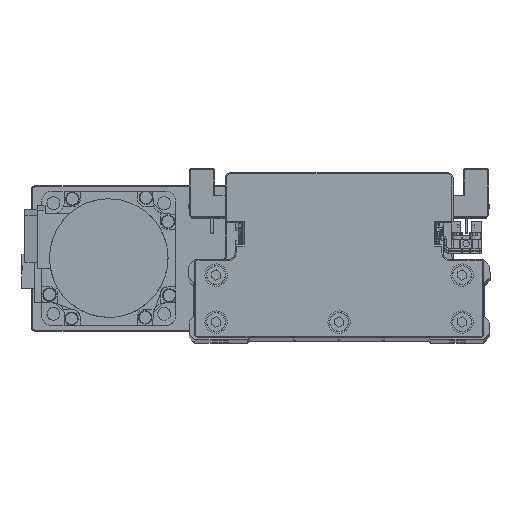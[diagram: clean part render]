
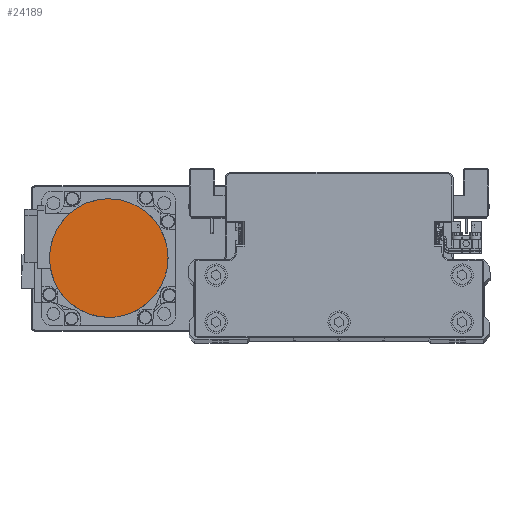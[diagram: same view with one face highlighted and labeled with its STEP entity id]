
A CAD part, top view. The second image highlights one B-rep face of the part: STEP entity #24189.
In plain terms, the highlighted planar face has unit normal (0, 0, 1) as drawn and (0, 0, -1) by its records, which use the part's own axes.
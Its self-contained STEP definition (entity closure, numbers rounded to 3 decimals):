
#183 = CARTESIAN_POINT ( 'NONE',  ( 19.965, 17.512, -109.7 ) ) ;
#407 = CARTESIAN_POINT ( 'NONE',  ( -11.744, 23.819, -109.7 ) ) ;
#766 = PLANE ( 'NONE',  #4361 ) ;
#1537 = CARTESIAN_POINT ( 'NONE',  ( -22.998, -13.28, -109.7 ) ) ;
#1757 = CARTESIAN_POINT ( 'NONE',  ( 6.871, -25.652, -109.7 ) ) ;
#1944 = CARTESIAN_POINT ( 'NONE',  ( 26.5, -1.734, -109.7 ) ) ;
#3289 = CARTESIAN_POINT ( 'NONE',  ( 23.819, 11.744, -109.7 ) ) ;
#3486 = CARTESIAN_POINT ( 'NONE',  ( -3.469, 26.329, -109.7 ) ) ;
#3703 = CARTESIAN_POINT ( 'NONE',  ( -26.329, 3.469, -109.7 ) ) ;
#4361 = AXIS2_PLACEMENT_3D ( 'NONE', #13308, #25846, #38378 ) ;
#4637 = CARTESIAN_POINT ( 'NONE',  ( -25.652, -6.871, -109.7 ) ) ;
#4839 = CARTESIAN_POINT ( 'NONE',  ( -1.734, -26.5, -109.7 ) ) ;
#5063 = CARTESIAN_POINT ( 'NONE',  ( 25.147, -8.539, -109.7 ) ) ;
#5468 = CARTESIAN_POINT ( 'NONE',  ( -26.5, 0., -109.7 ) ) ;
#6392 = CARTESIAN_POINT ( 'NONE',  ( 26.329, 3.469, -109.7 ) ) ;
#6581 = CARTESIAN_POINT ( 'NONE',  ( 3.469, 26.329, -109.7 ) ) ;
#6777 = CARTESIAN_POINT ( 'NONE',  ( -23.819, 11.744, -109.7 ) ) ;
#7732 = CARTESIAN_POINT ( 'NONE',  ( -26.5, 0., -109.7 ) ) ;
#7921 = CARTESIAN_POINT ( 'NONE',  ( -8.539, -25.147, -109.7 ) ) ;
#8131 = CARTESIAN_POINT ( 'NONE',  ( 21.07, -16.165, -109.7 ) ) ;
#9673 = CARTESIAN_POINT ( 'NONE',  ( 11.744, 23.819, -109.7 ) ) ;
#9862 = CARTESIAN_POINT ( 'NONE',  ( -19.965, 17.512, -109.7 ) ) ;
#10492 = B_SPLINE_CURVE_WITH_KNOTS ( 'NONE', 3,
 ( #21998, #34525, #6392, #18913, #31440, #3289, #15810, #28350, #183, #12733, #25278, #37810, #9673, #22195, #34717, #6581, #19102, #31627, #3486, #16018, #28563, #407, #12949, #25481, #37998, #9862, #22383, #34910, #6777, #19310, #31838, #3703, #16237, #28765 ),
 .UNSPECIFIED., .F., .F.,
 ( 4, 2, 2, 2, 2, 2, 2, 2, 2, 2, 2, 2, 2, 2, 2, 2, 4 ),
 ( 0., 0.062, 0.125, 0.187, 0.25, 0.312, 0.375, 0.437, 0.5, 0.562, 0.625, 0.687, 0.75, 0.813, 0.875, 0.938, 1. ),
 .UNSPECIFIED. ) ;
#11030 = CARTESIAN_POINT ( 'NONE',  ( -16.165, -21.07, -109.7 ) ) ;
#11223 = CARTESIAN_POINT ( 'NONE',  ( 16.165, -21.07, -109.7 ) ) ;
#12733 = CARTESIAN_POINT ( 'NONE',  ( 17.512, 19.965, -109.7 ) ) ;
#12811 = ORIENTED_EDGE ( 'NONE', *, *, #29526, .F. ) ;
#12949 = CARTESIAN_POINT ( 'NONE',  ( -13.28, 22.998, -109.7 ) ) ;
#13308 = CARTESIAN_POINT ( 'NONE',  ( 0., 0., -109.7 ) ) ;
#14088 = CARTESIAN_POINT ( 'NONE',  ( -21.07, -16.165, -109.7 ) ) ;
#14300 = CARTESIAN_POINT ( 'NONE',  ( 8.539, -25.147, -109.7 ) ) ;
#14485 = CARTESIAN_POINT ( 'NONE',  ( 26.5, 0., -109.7 ) ) ;
#15810 = CARTESIAN_POINT ( 'NONE',  ( 22.998, 13.28, -109.7 ) ) ;
#16018 = CARTESIAN_POINT ( 'NONE',  ( -6.871, 25.652, -109.7 ) ) ;
#16237 = CARTESIAN_POINT ( 'NONE',  ( -26.5, 1.734, -109.7 ) ) ;
#17163 = CARTESIAN_POINT ( 'NONE',  ( -25.147, -8.539, -109.7 ) ) ;
#17378 = CARTESIAN_POINT ( 'NONE',  ( 1.734, -26.5, -109.7 ) ) ;
#17587 = CARTESIAN_POINT ( 'NONE',  ( 25.652, -6.871, -109.7 ) ) ;
#18777 = ORIENTED_EDGE ( 'NONE', *, *, #36994, .F. ) ;
#18913 = CARTESIAN_POINT ( 'NONE',  ( 25.652, 6.871, -109.7 ) ) ;
#19030 = VERTEX_POINT ( 'NONE', #5468 ) ;
#19102 = CARTESIAN_POINT ( 'NONE',  ( 1.734, 26.5, -109.7 ) ) ;
#19310 = CARTESIAN_POINT ( 'NONE',  ( -25.147, 8.539, -109.7 ) ) ;
#20256 = CARTESIAN_POINT ( 'NONE',  ( -26.5, -1.734, -109.7 ) ) ;
#20447 = CARTESIAN_POINT ( 'NONE',  ( -6.871, -25.652, -109.7 ) ) ;
#20669 = CARTESIAN_POINT ( 'NONE',  ( 22.998, -13.28, -109.7 ) ) ;
#21998 = CARTESIAN_POINT ( 'NONE',  ( 26.5, 0., -109.7 ) ) ;
#22195 = CARTESIAN_POINT ( 'NONE',  ( 8.539, 25.147, -109.7 ) ) ;
#22383 = CARTESIAN_POINT ( 'NONE',  ( -21.07, 16.165, -109.7 ) ) ;
#22533 = EDGE_LOOP ( 'NONE', ( #12811, #18777 ) ) ;
#23538 = CARTESIAN_POINT ( 'NONE',  ( -13.28, -22.998, -109.7 ) ) ;
#23733 = CARTESIAN_POINT ( 'NONE',  ( 17.512, -19.965, -109.7 ) ) ;
#24189 = ADVANCED_FACE ( 'NONE', ( #28933 ), #766, .F. ) ;
#25278 = CARTESIAN_POINT ( 'NONE',  ( 16.165, 21.07, -109.7 ) ) ;
#25481 = CARTESIAN_POINT ( 'NONE',  ( -16.165, 21.07, -109.7 ) ) ;
#25846 = DIRECTION ( 'NONE',  ( 0., 0., 1. ) ) ;
#26630 = CARTESIAN_POINT ( 'NONE',  ( -19.965, -17.512, -109.7 ) ) ;
#26825 = CARTESIAN_POINT ( 'NONE',  ( 11.744, -23.819, -109.7 ) ) ;
#28350 = CARTESIAN_POINT ( 'NONE',  ( 21.07, 16.165, -109.7 ) ) ;
#28498 = B_SPLINE_CURVE_WITH_KNOTS ( 'NONE', 3,
 ( #7732, #20256, #32772, #4637, #17163, #29700, #1537, #14088, #26630, #39163, #11030, #23538, #36066, #7921, #20447, #32974, #4839, #17378, #29923, #1757, #14300, #26825, #39346, #11223, #23733, #36265, #8131, #20669, #33201, #5063, #17587, #30123, #1944, #14485 ),
 .UNSPECIFIED., .F., .F.,
 ( 4, 2, 2, 2, 2, 2, 2, 2, 2, 2, 2, 2, 2, 2, 2, 2, 4 ),
 ( 0., 0.063, 0.125, 0.188, 0.25, 0.312, 0.375, 0.437, 0.5, 0.562, 0.625, 0.687, 0.75, 0.813, 0.875, 0.938, 1. ),
 .UNSPECIFIED. ) ;
#28563 = CARTESIAN_POINT ( 'NONE',  ( -8.539, 25.147, -109.7 ) ) ;
#28765 = CARTESIAN_POINT ( 'NONE',  ( -26.5, 0., -109.7 ) ) ;
#28933 = FACE_OUTER_BOUND ( 'NONE', #22533, .T. ) ;
#29526 = EDGE_CURVE ( 'NONE', #31858, #19030, #10492, .T. ) ;
#29700 = CARTESIAN_POINT ( 'NONE',  ( -23.819, -11.744, -109.7 ) ) ;
#29923 = CARTESIAN_POINT ( 'NONE',  ( 3.469, -26.329, -109.7 ) ) ;
#30123 = CARTESIAN_POINT ( 'NONE',  ( 26.329, -3.469, -109.7 ) ) ;
#31440 = CARTESIAN_POINT ( 'NONE',  ( 25.147, 8.539, -109.7 ) ) ;
#31627 = CARTESIAN_POINT ( 'NONE',  ( -1.734, 26.5, -109.7 ) ) ;
#31838 = CARTESIAN_POINT ( 'NONE',  ( -25.652, 6.871, -109.7 ) ) ;
#31858 = VERTEX_POINT ( 'NONE', #39379 ) ;
#32772 = CARTESIAN_POINT ( 'NONE',  ( -26.329, -3.469, -109.7 ) ) ;
#32974 = CARTESIAN_POINT ( 'NONE',  ( -3.469, -26.329, -109.7 ) ) ;
#33201 = CARTESIAN_POINT ( 'NONE',  ( 23.819, -11.744, -109.7 ) ) ;
#34525 = CARTESIAN_POINT ( 'NONE',  ( 26.5, 1.734, -109.7 ) ) ;
#34717 = CARTESIAN_POINT ( 'NONE',  ( 6.871, 25.652, -109.7 ) ) ;
#34910 = CARTESIAN_POINT ( 'NONE',  ( -22.998, 13.28, -109.7 ) ) ;
#36066 = CARTESIAN_POINT ( 'NONE',  ( -11.744, -23.819, -109.7 ) ) ;
#36265 = CARTESIAN_POINT ( 'NONE',  ( 19.965, -17.512, -109.7 ) ) ;
#36994 = EDGE_CURVE ( 'NONE', #19030, #31858, #28498, .T. ) ;
#37810 = CARTESIAN_POINT ( 'NONE',  ( 13.28, 22.998, -109.7 ) ) ;
#37998 = CARTESIAN_POINT ( 'NONE',  ( -17.512, 19.965, -109.7 ) ) ;
#38378 = DIRECTION ( 'NONE',  ( 1., 0., 0. ) ) ;
#39163 = CARTESIAN_POINT ( 'NONE',  ( -17.512, -19.965, -109.7 ) ) ;
#39346 = CARTESIAN_POINT ( 'NONE',  ( 13.28, -22.998, -109.7 ) ) ;
#39379 = CARTESIAN_POINT ( 'NONE',  ( 26.5, 0., -109.7 ) ) ;
